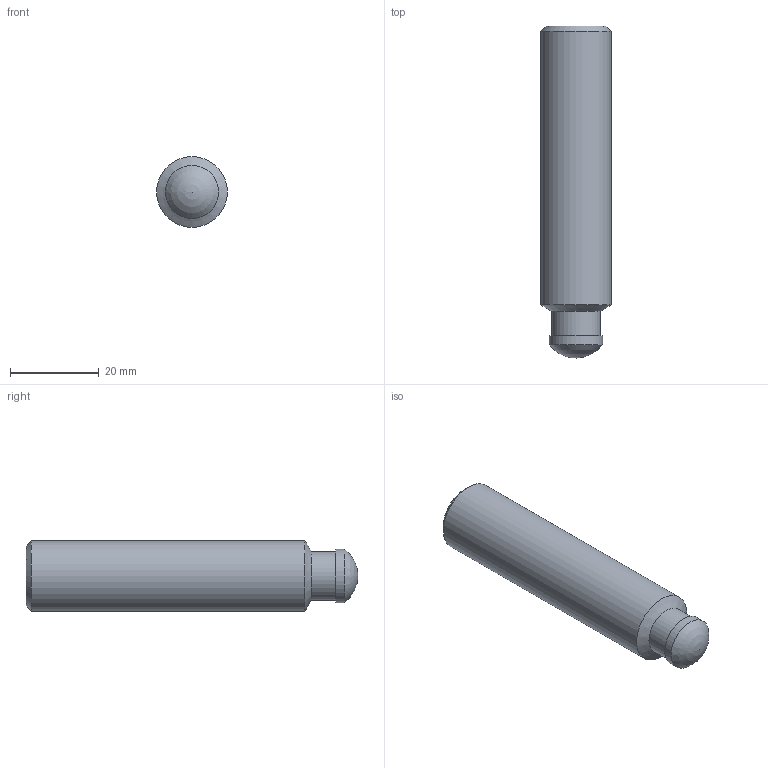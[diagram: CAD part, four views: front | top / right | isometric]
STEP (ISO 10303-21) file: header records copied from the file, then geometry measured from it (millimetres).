
FILE_DESCRIPTION( ( 'STEP AP203' ), '1' );
FILE_NAME( 'C:/Temp/Ganter_Step_05_03_2020/data/3_2/din6332/din6332/Grub screw DIN 6332-M16-75-SK.stp', '2020-03-13T05:16:23', ( 'License CC BY-ND 4.0' ), ( 'CADENAS' ), ' ', 'PARTsolutions', ' ' );
FILE_SCHEMA( ( 'CONFIG_CONTROL_DESIGN' ) );
Length unit declared in the file: millimetre
Products named in the file (1): _Grub screw DIN 6332-M16-75-SK
Bounding box: 16 x 75 x 16 mm (x, y, z)
Volume: 13528.6 mm3; surface area: 4003.7 mm2
Topology: 1 solids, 1 shells, 15 faces, 33 edges, 21 vertices
Faces by surface type: plane 9, cylinder 3, cone 2, sphere 1
Full cylindrical faces by diameter (mm): 11 x1, 12 x1, 16 x1
Entity records: 410 total; most frequent: DIRECTION 64, CARTESIAN_POINT 61, ORIENTED_EDGE 50, EDGE_CURVE 25, AXIS2_PLACEMENT_3D 23, EDGE_LOOP 22, VERTEX_POINT 20, FACE_OUTER_BOUND 18
